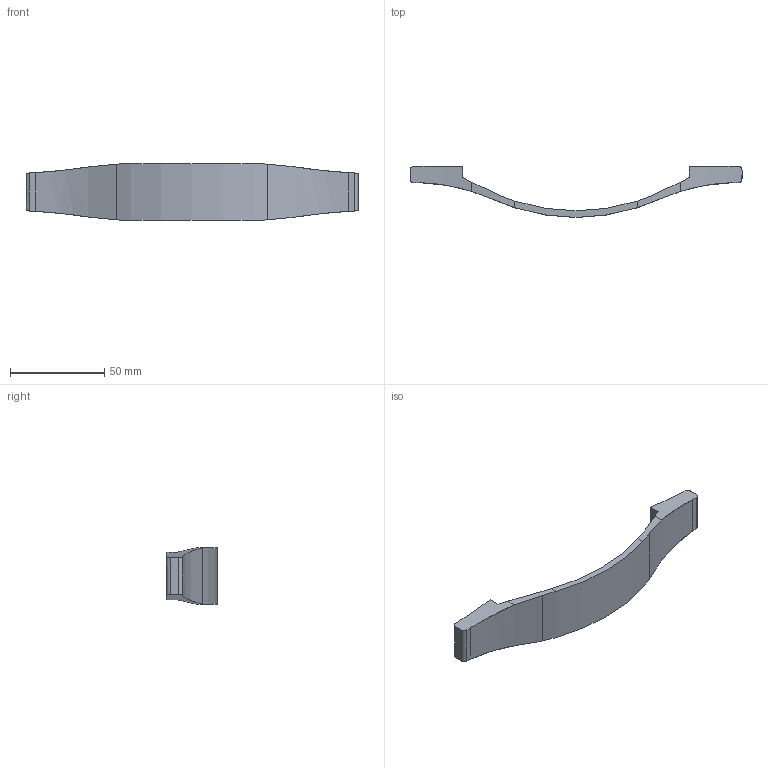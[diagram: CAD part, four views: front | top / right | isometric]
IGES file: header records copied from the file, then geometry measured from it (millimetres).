
Start section: Data from Parasolid IGES Translator 15.0.47, Copyright(c) 2006 Siemens P LM Software. All Rights Reserved.
Global section: file name: 9113504.igs; native system:  By UGS Corp.; preprocessor: XPlus GENERIC/IGES 3.0; author: Noname; organization: Noname; date: 20140122.101834; units: millimetre
Bounding box: 176 x 27 x 30 mm (x, y, z)
Surface area: 12608.2 mm2 (no closed solid volume)
Topology: 0 solids, 0 shells, 32 faces, 168 edges, 166 vertices
Faces by surface type: revolution 20, extrusion 12
